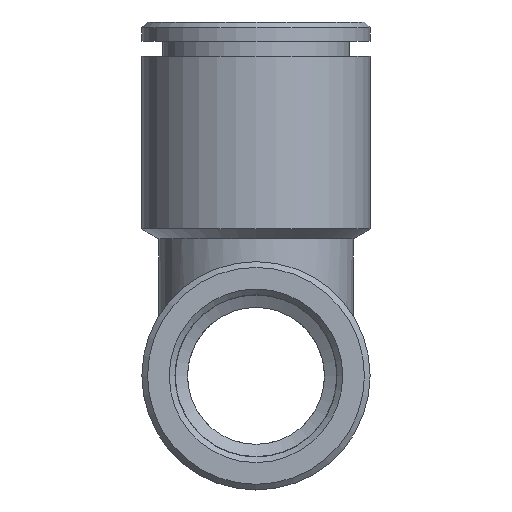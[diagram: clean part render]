
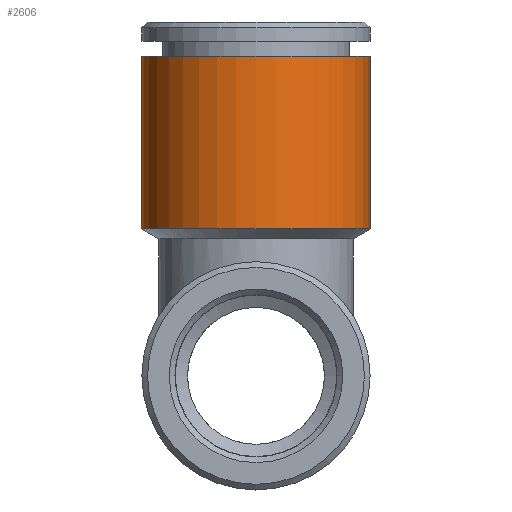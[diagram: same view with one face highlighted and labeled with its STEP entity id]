
A CAD part, left-side view. The second image highlights one B-rep face of the part: STEP entity #2606.
In plain terms, the highlighted cylindrical face has radius 10 mm (diameter 20 mm), a full revolution.
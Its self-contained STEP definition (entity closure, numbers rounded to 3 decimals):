
#997=ORIENTED_EDGE('',*,*,#1278,.T.);
#998=ORIENTED_EDGE('',*,*,#1277,.F.);
#1118=CIRCLE('',#2453,10.);
#1119=CIRCLE('',#2455,10.);
#1197=VERTEX_POINT('',#2255);
#1198=VERTEX_POINT('',#2258);
#1277=EDGE_CURVE('',#1197,#1197,#1118,.T.);
#1278=EDGE_CURVE('',#1198,#1198,#1119,.T.);
#1377=EDGE_LOOP('',(#997));
#1378=EDGE_LOOP('',(#998));
#1521=FACE_BOUND('',#1377,.T.);
#1522=FACE_BOUND('',#1378,.T.);
#1727=DIRECTION('',(0.,-1.,0.));
#1728=DIRECTION('',(-10.,0.,0.));
#1729=DIRECTION('',(0.,-1.,0.));
#1730=DIRECTION('',(-1.,0.,0.));
#1731=DIRECTION('',(0.,-1.,0.));
#1732=DIRECTION('',(-10.,0.,0.));
#2255=CARTESIAN_POINT('',(105.24,96.248,0.));
#2256=CARTESIAN_POINT('',(115.24,96.248,0.));
#2257=CARTESIAN_POINT('',(115.24,111.382,0.));
#2258=CARTESIAN_POINT('',(105.24,111.382,0.));
#2259=CARTESIAN_POINT('',(115.24,111.382,0.));
#2453=AXIS2_PLACEMENT_3D('',#2256,#1727,#1728);
#2454=AXIS2_PLACEMENT_3D('',#2257,#1729,#1730);
#2455=AXIS2_PLACEMENT_3D('',#2259,#1731,#1732);
#2561=CYLINDRICAL_SURFACE('',#2454,10.);
#2606=ADVANCED_FACE('',(#1521,#1522),#2561,.T.);
